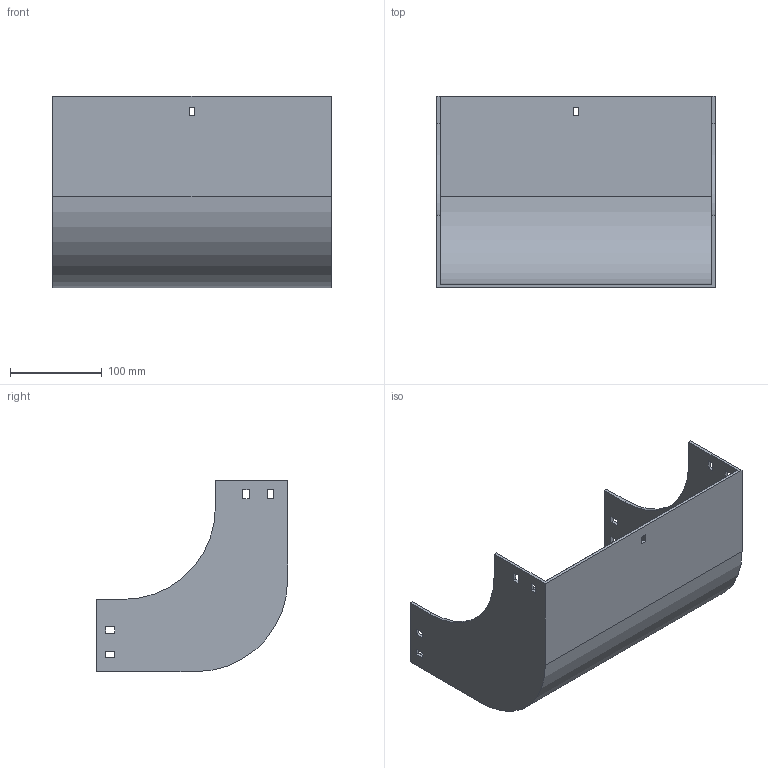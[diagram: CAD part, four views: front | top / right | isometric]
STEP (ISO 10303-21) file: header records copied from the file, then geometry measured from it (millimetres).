
FILE_DESCRIPTION (( 'STEP AP214' ), '1' );
FILE_NAME ('30F1C300.step', '2025-02-21T13:02:13', ( '' ), ( '' ), 'SwSTEP 2.0', 'SolidWorks 2023', '' );
FILE_SCHEMA (( 'AUTOMOTIVE_DESIGN' ));
Length unit declared in the file: millimetre
Products named in the file (1): 30F1C300
Bounding box: 304 x 209 x 209 mm (x, y, z)
Volume: 572135.3 mm3; surface area: 332827.3 mm2
Topology: 1 solids, 1 shells, 58 faces, 168 edges, 112 vertices
Faces by surface type: plane 54, cylinder 4
Entity records: 1943 total; most frequent: CARTESIAN_POINT 339, ORIENTED_EDGE 336, DIRECTION 294, EDGE_CURVE 168, LINE 160, VECTOR 160, VERTEX_POINT 112, EDGE_LOOP 78
